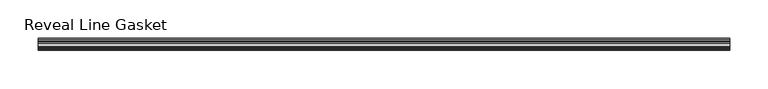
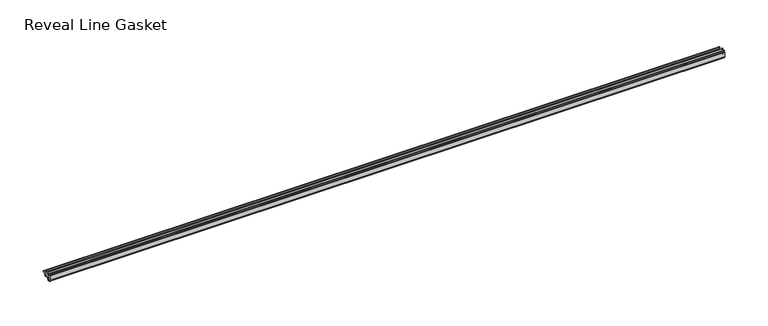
"""IFC4 building model written with IfcOpenShell, lengths in millimetres: proxy geometry, Accessories-Teknion-FHGR-AI_Healthcare-Reveal_Line_Gasket(Horizontal)-R2022 : Reveal Line Gasket."""

from ifc_helpers import new_model, si_unit, point, frame, frame_2d, origin, place, context, project, spatial, polyline, circle_curve, trimmed, segment, composite_curve, outline, extrude, source, transform, mapped, element, save


def reveal_line_gasket_0fe01095(model_context):
    return source(origin(), model_context, "Body", "SweptSolid", [
        extrude(outline(composite_curve([segment(polyline([(-7.6326998, 1603.2), (-7.4091917, 1604.1554927), (-6.8813059, 1605.0884684)]), True, "CONTINUOUS"), segment(trimmed(circle_curve(frame_2d((-6.5243141, 1604.8864793)), 0.4101739), [point((-6.8813059, 1605.0884684))], [point((-6.1246704, 1604.7941347))], False, "CARTESIAN"), True, "CONTINUOUS"), segment(polyline([(-6.1246704, 1604.7941347), (-6.3626997, 1603.0979086), (-6.3626997, 1601.0654527)]), True, "CONTINUOUS"), segment(trimmed(circle_curve(frame_2d((-5.6959605, 1601.4819258)), 0.786124), [point((-6.3626997, 1601.0654527))], [point((-5.0926996, 1600.977875))], True, "CARTESIAN"), True, "CONTINUOUS"), segment(polyline([(-5.0926996, 1600.977875), (-0.7492996, 1600.977875), (-3.7293824, 1606.1395295)]), True, "CONTINUOUS"), segment(trimmed(circle_curve(frame_2d((-3.3132479, 1606.2049761)), 0.4212495), [point((-3.7293824, 1606.1395295))], [point((-3.0485022, 1606.5326358))], False, "CARTESIAN"), True, "CONTINUOUS"), segment(polyline([(-3.0485022, 1606.5326358), (0.5742594, 1600.977875), (4.8262978, 1600.977875), (3.1660374, 1603.8535297)]), True, "CONTINUOUS"), segment(trimmed(circle_curve(frame_2d((3.5978728, 1603.9118855)), 0.4357605), [point((3.1660374, 1603.8535297))], [point((3.864328, 1604.2566881))], False, "CARTESIAN"), True, "CONTINUOUS"), segment(polyline([(3.864328, 1604.2566881), (6.1944059, 1600.977875), (7.6326998, 1600.977875), (7.6326998, 1599.422125), (6.1944059, 1599.422125), (3.864328, 1596.1433119)]), True, "CONTINUOUS"), segment(trimmed(circle_curve(frame_2d((3.5978728, 1596.4881145)), 0.4357605), [point((3.864328, 1596.1433119))], [point((3.1660374, 1596.5464703))], False, "CARTESIAN"), True, "CONTINUOUS"), segment(polyline([(3.1660374, 1596.5464703), (4.8262978, 1599.422125), (0.5742594, 1599.422125), (-3.0485022, 1593.8673642)]), True, "CONTINUOUS"), segment(trimmed(circle_curve(frame_2d((-3.3132479, 1594.1950239)), 0.4212495), [point((-3.0485022, 1593.8673642))], [point((-3.7293824, 1594.2604705))], False, "CARTESIAN"), True, "CONTINUOUS"), segment(polyline([(-3.7293824, 1594.2604705), (-0.7492996, 1599.422125), (-5.0926996, 1599.422125)]), True, "CONTINUOUS"), segment(trimmed(circle_curve(frame_2d((-5.6959605, 1598.9180742)), 0.786124), [point((-5.0926996, 1599.422125))], [point((-6.3626997, 1599.3345473))], True, "CARTESIAN"), True, "CONTINUOUS"), segment(polyline([(-6.3626997, 1599.3345473), (-6.3626997, 1597.3020914), (-6.1246704, 1595.6058653)]), True, "CONTINUOUS"), segment(trimmed(circle_curve(frame_2d((-6.5243141, 1595.5135207)), 0.4101739), [point((-6.1246704, 1595.6058653))], [point((-6.8813059, 1595.3115316))], False, "CARTESIAN"), True, "CONTINUOUS"), segment(polyline([(-6.8813059, 1595.3115316), (-7.4091917, 1596.2445073), (-7.6326998, 1597.2), (-7.6326998, 1603.2)]), True, "CONTINUOUS")], self_intersect=False)), frame((-448.9044872, 0.0, 0.0), z_axis=(1.0, 0.0, 0.0), x_axis=(0.0, 1.0, 0.0)), (0.0, 0.0, 1.0), 897.8089744),
    ])


if __name__ == "__main__":
    model = new_model("IFC4")
    model_context = context("Model", 3, world=origin())
    ifc_project = project(units=[si_unit("LENGTHUNIT", "METRE", prefix="MILLI")], contexts=[model_context])
    site = spatial("IfcSite", under=ifc_project)
    building = spatial("IfcBuilding", under=site)
    placement = place(None, origin())
    reveal_line_gasket_shape = reveal_line_gasket_0fe01095(model_context)
    element("IfcBuildingElementProxy", 1, Name="Accessories-Teknion-FHGR-AI_Healthcare-Reveal_Line_Gasket(Horizontal)-R2022 : Reveal Line Gasket", ObjectType="Accessories-Teknion-FHGR-AI_Healthcare-Reveal_Line_Gasket(Horizontal)-R2022 : Reveal Line Gasket", at=placement, inside=building, context=model_context, shape_type="MappedRepresentation", body=[
        mapped(reveal_line_gasket_shape, transform((0.0, 0.0, 0.0), x_axis=(1.0, 0.0, 0.0), y_axis=(0.0, 1.0, 0.0), z_axis=(0.0, 0.0, 1.0))),
    ])
    save(model, "model.ifc")
